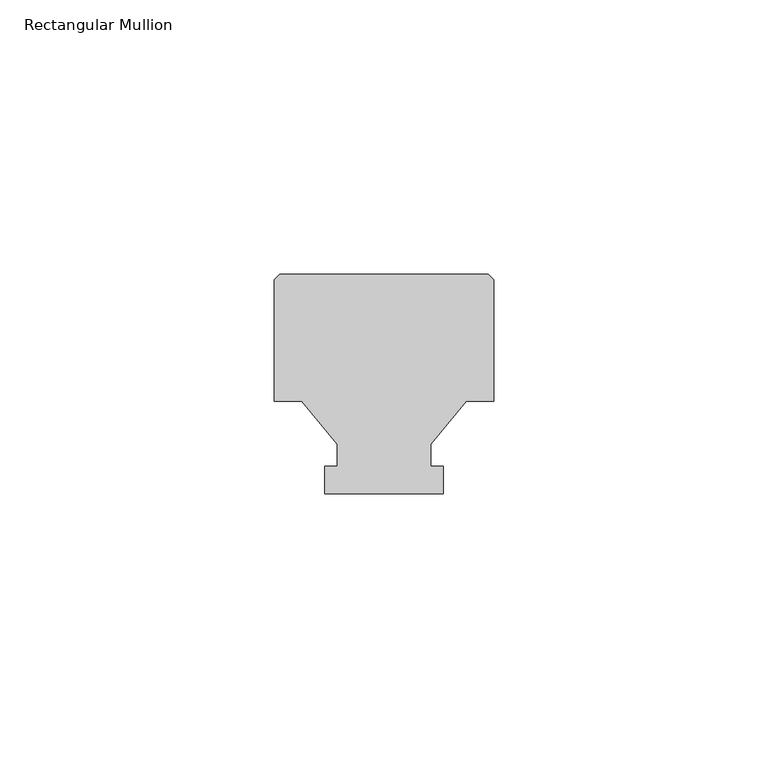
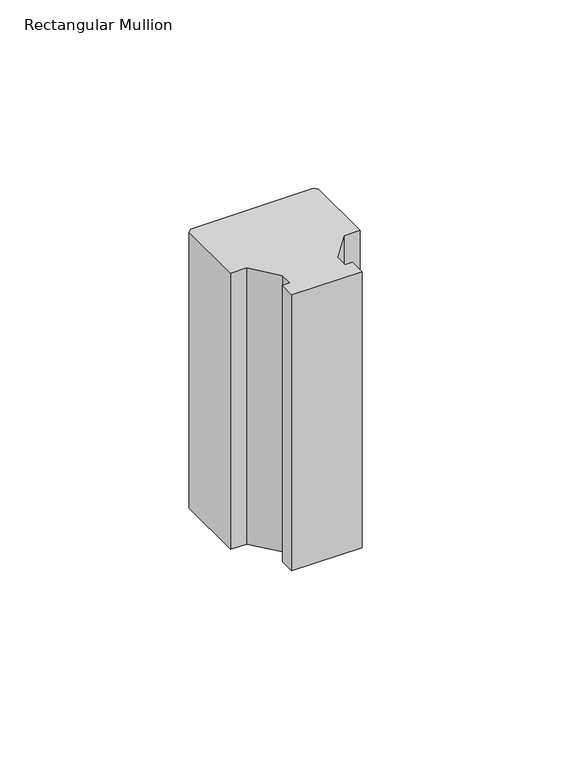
"""IFC4 building model written with IfcOpenShell, lengths in millimetres: member geometry, Rectangular Mullion : Batten_Timber_Modinex_Austratus_Grid_Fin_40x40_AlaskanYellowCedar."""

from ifc_helpers import new_model, si_unit, frame, origin, place, context, project, spatial, polyline, outline, extrude, source, transform, mapped, element, save


def rectangular_mullion_b3ed1982(model_context):
    return source(origin(), model_context, "Body", "SweptSolid", [
        extrude(outline(polyline([(0.0, 16.8079815), (-5.0, 16.8079815), (-11.5, 9.0), (-11.5, 5.0), (-9.187805, 5.0), (-9.187805, 0.0), (-30.812195, 0.0), (-30.812195, 5.0), (-28.5, 5.0), (-28.5, 9.0), (-35.0, 16.8079815), (-40.0, 16.8079815), (-40.0, 39.0), (-39.0, 40.0), (-1.0, 40.0), (0.0, 39.0), (0.0, 16.8079815)])), frame((0.0, 0.0, -90.0000003), z_axis=(0.0, 0.0, 1.0), x_axis=(1.0, 0.0, 0.0)), (0.0, 0.0, 1.0), 90.0000003),
    ])


if __name__ == "__main__":
    model = new_model("IFC4")
    model_context = context("Model", 3, world=origin())
    ifc_project = project(units=[si_unit("LENGTHUNIT", "METRE", prefix="MILLI")], contexts=[model_context])
    site = spatial("IfcSite", under=ifc_project)
    building = spatial("IfcBuilding", under=site)
    placement = place(None, origin())
    rectangular_mullion_shape = rectangular_mullion_b3ed1982(model_context)
    element("IfcMember", 1, ObjectType="Rectangular Mullion : Batten_Timber_Modinex_Austratus_Grid_Fin_40x40_AlaskanYellowCedar", at=placement, inside=building, context=model_context, shape_type="MappedRepresentation", body=[
        mapped(rectangular_mullion_shape, transform((0.0, 0.0, 0.0), x_axis=(1.0, 0.0, 0.0), y_axis=(0.0, 1.0, 0.0), z_axis=(0.0, 0.0, 1.0))),
    ])
    save(model, "model.ifc")
